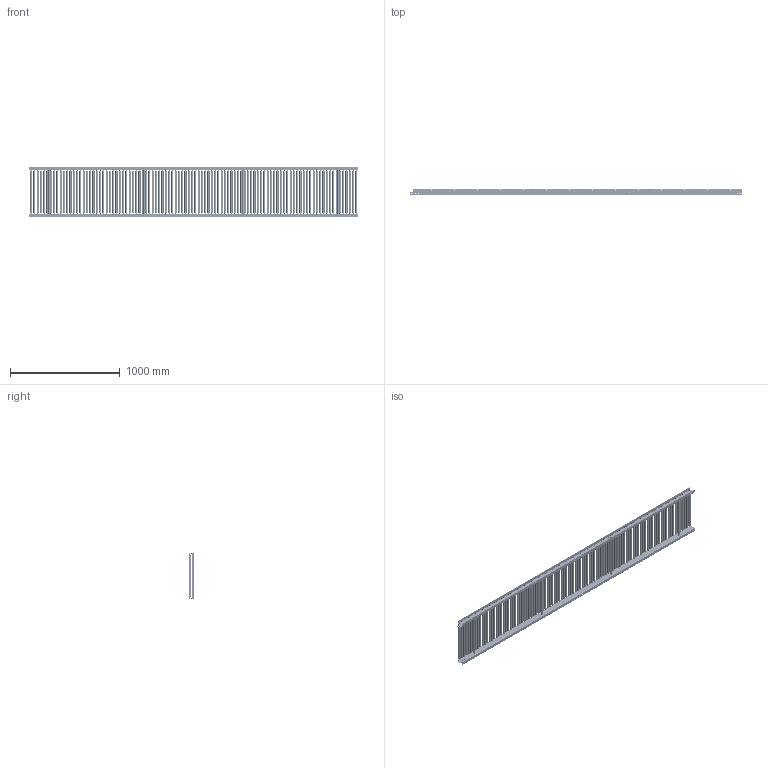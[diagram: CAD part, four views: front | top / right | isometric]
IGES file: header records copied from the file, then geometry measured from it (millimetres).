
Start section: SolidWorks IGES file using analytic representation for surfaces
Global section: file name: C:\Users\0656\Desktop\変換ツール\iges変換\S-1912P.igs; native system: SolidWorks 2023; preprocessor: SolidWorks 2023; author: 0656; date: 240226.152912; units: millimetre
Bounding box: 3031.5 x 61.55 x 460 mm (x, y, z)
Surface area: 6098821.9 mm2 (no closed solid volume)
Topology: 0 solids, 0 shells, 4950 faces, 68176 edges, 68176 vertices
Faces by surface type: bspline 3172, revolution 1778
